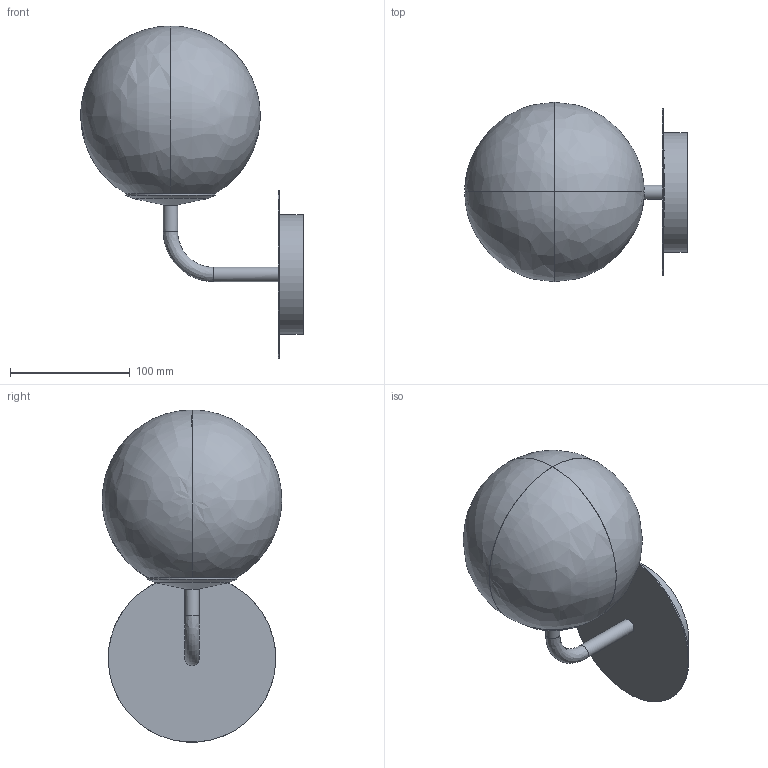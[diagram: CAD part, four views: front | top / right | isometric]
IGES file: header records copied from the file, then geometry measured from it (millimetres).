
Global section: file name: PARMA-A3946180-3D; native system: AutoCAD 2022 - Español (Spanish),; preprocessor: Autodesk Translation Framework DWG producer (atf_dwg_producer); organization: unknown; date: 20221221.101547; units: millimetre
Bounding box: 186 x 150 x 277.47 mm (x, y, z)
Volume: 1584850.3 mm3; surface area: 211429.7 mm2
Topology: 6 solids, 6 shells, 43 faces, 111 edges, 79 vertices
Faces by surface type: bspline 43
